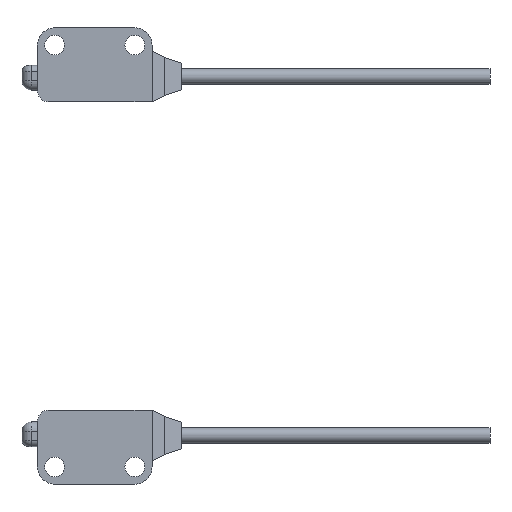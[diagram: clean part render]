
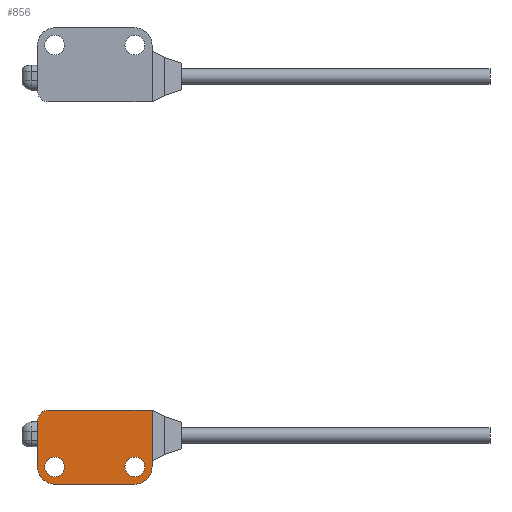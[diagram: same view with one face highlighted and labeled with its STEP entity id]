
A CAD part, left-side view. The second image highlights one B-rep face of the part: STEP entity #856.
In plain terms, the highlighted planar face has unit normal (-1, 0, 0).
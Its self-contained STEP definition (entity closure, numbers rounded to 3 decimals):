
#350 = VERTEX_POINT ( 'NONE', #1519 ) ;
#377 = EDGE_CURVE ( 'NONE', #350, #382, #1602, .T. ) ;
#382 = VERTEX_POINT ( 'NONE', #1593 ) ;
#432 = EDGE_CURVE ( 'NONE', #433, #451, #1676, .T. ) ;
#433 = VERTEX_POINT ( 'NONE', #1672 ) ;
#451 = VERTEX_POINT ( 'NONE', #1704 ) ;
#452 = EDGE_CURVE ( 'NONE', #487, #466, #1702, .T. ) ;
#466 = VERTEX_POINT ( 'NONE', #1741 ) ;
#487 = VERTEX_POINT ( 'NONE', #1779 ) ;
#797 = ORIENTED_EDGE ( 'NONE', *, *, #798, .T. ) ;
#798 = EDGE_CURVE ( 'NONE', #923, #466, #2315, .T. ) ;
#799 = ORIENTED_EDGE ( 'NONE', *, *, #432, .T. ) ;
#800 = ORIENTED_EDGE ( 'NONE', *, *, #452, .F. ) ;
#801 = EDGE_CURVE ( 'NONE', #487, #917, #2300, .T. ) ;
#803 = ORIENTED_EDGE ( 'NONE', *, *, #854, .T. ) ;
#805 = EDGE_LOOP ( 'NONE', ( #803, #857 ) ) ;
#807 = EDGE_LOOP ( 'NONE', ( #861, #799 ) ) ;
#808 = ORIENTED_EDGE ( 'NONE', *, *, #912, .F. ) ;
#809 = ORIENTED_EDGE ( 'NONE', *, *, #801, .T. ) ;
#812 = ORIENTED_EDGE ( 'NONE', *, *, #886, .F. ) ;
#843 = ORIENTED_EDGE ( 'NONE', *, *, #859, .T. ) ;
#854 = EDGE_CURVE ( 'NONE', #382, #350, #2367, .T. ) ;
#855 = EDGE_LOOP ( 'NONE', ( #858, #797, #800, #809, #808, #843, #812 ) ) ;
#856 = ADVANCED_FACE ( 'NONE', ( #2357, #2359, #2368 ), #2383, .F. ) ;
#857 = ORIENTED_EDGE ( 'NONE', *, *, #377, .T. ) ;
#858 = ORIENTED_EDGE ( 'NONE', *, *, #925, .F. ) ;
#859 = EDGE_CURVE ( 'NONE', #924, #897, #2354, .T. ) ;
#860 = EDGE_CURVE ( 'NONE', #451, #433, #2360, .T. ) ;
#861 = ORIENTED_EDGE ( 'NONE', *, *, #860, .T. ) ;
#886 = EDGE_CURVE ( 'NONE', #929, #897, #2431, .T. ) ;
#897 = VERTEX_POINT ( 'NONE', #2162 ) ;
#912 = EDGE_CURVE ( 'NONE', #924, #917, #2467, .T. ) ;
#917 = VERTEX_POINT ( 'NONE', #2471 ) ;
#923 = VERTEX_POINT ( 'NONE', #2446 ) ;
#924 = VERTEX_POINT ( 'NONE', #2468 ) ;
#925 = EDGE_CURVE ( 'NONE', #923, #929, #2448, .T. ) ;
#929 = VERTEX_POINT ( 'NONE', #2501 ) ;
#1519 = CARTESIAN_POINT ( 'NONE',  ( -4.1, -6.5, -7.6 ) ) ;
#1523 = CARTESIAN_POINT ( 'NONE',  ( -4.1, -6.5, -9.2 ) ) ;
#1550 = AXIS2_PLACEMENT_3D ( 'NONE', #1523, #1599, #1598 ) ;
#1593 = CARTESIAN_POINT ( 'NONE',  ( -4.1, -6.5, -10.8 ) ) ;
#1598 = DIRECTION ( 'NONE',  ( 0., 0., -1. ) ) ;
#1599 = DIRECTION ( 'NONE',  ( 1., 0., 0. ) ) ;
#1602 = CIRCLE ( 'NONE', #1550, 1.6 ) ;
#1647 = CARTESIAN_POINT ( 'NONE',  ( -4.1, 6.5, -9.2 ) ) ;
#1669 = DIRECTION ( 'NONE',  ( 0., 0., -1. ) ) ;
#1670 = DIRECTION ( 'NONE',  ( 1., 0., 0. ) ) ;
#1672 = CARTESIAN_POINT ( 'NONE',  ( -4.1, 6.5, -7.6 ) ) ;
#1676 = CIRCLE ( 'NONE', #1691, 1.6 ) ;
#1691 = AXIS2_PLACEMENT_3D ( 'NONE', #1647, #1670, #1669 ) ;
#1699 = DIRECTION ( 'NONE',  ( 0., 0., 1. ) ) ;
#1700 = VECTOR ( 'NONE', #1699, 1000. ) ;
#1701 = CARTESIAN_POINT ( 'NONE',  ( -4.1, 9.3, 0. ) ) ;
#1702 = LINE ( 'NONE', #1701, #1700 ) ;
#1704 = CARTESIAN_POINT ( 'NONE',  ( -4.1, 6.5, -10.8 ) ) ;
#1741 = CARTESIAN_POINT ( 'NONE',  ( -4.1, 9.3, -1.8 ) ) ;
#1779 = CARTESIAN_POINT ( 'NONE',  ( -4.1, 9.3, -9.2 ) ) ;
#2162 = CARTESIAN_POINT ( 'NONE',  ( -4.1, -9.3, -9.2 ) ) ;
#2254 = DIRECTION ( 'NONE',  ( -1., 0., 0. ) ) ;
#2296 = DIRECTION ( 'NONE',  ( 0., 0., -1. ) ) ;
#2297 = DIRECTION ( 'NONE',  ( -1., 0., 0. ) ) ;
#2298 = CARTESIAN_POINT ( 'NONE',  ( -4.1, 6.5, -9.2 ) ) ;
#2299 = AXIS2_PLACEMENT_3D ( 'NONE', #2298, #2297, #2296 ) ;
#2300 = CIRCLE ( 'NONE', #2299, 2.8 ) ;
#2301 = DIRECTION ( 'NONE',  ( 0., 0., -1. ) ) ;
#2307 = AXIS2_PLACEMENT_3D ( 'NONE', #2308, #2254, #2301 ) ;
#2308 = CARTESIAN_POINT ( 'NONE',  ( -4.1, 7.5, -1.8 ) ) ;
#2315 = CIRCLE ( 'NONE', #2307, 1.8 ) ;
#2333 = DIRECTION ( 'NONE',  ( 1., 0., 0. ) ) ;
#2353 = AXIS2_PLACEMENT_3D ( 'NONE', #2404, #2403, #2402 ) ;
#2354 = CIRCLE ( 'NONE', #2411, 2.8 ) ;
#2355 = DIRECTION ( 'NONE',  ( 0., 0., -1. ) ) ;
#2356 = DIRECTION ( 'NONE',  ( 1., 0., 0. ) ) ;
#2357 = FACE_BOUND ( 'NONE', #805, .T. ) ;
#2358 = CARTESIAN_POINT ( 'NONE',  ( -4.1, -9.3, 0. ) ) ;
#2359 = FACE_BOUND ( 'NONE', #807, .T. ) ;
#2360 = CIRCLE ( 'NONE', #2353, 1.6 ) ;
#2361 = AXIS2_PLACEMENT_3D ( 'NONE', #2358, #2356, #2362 ) ;
#2362 = DIRECTION ( 'NONE',  ( 0., 0., -1. ) ) ;
#2367 = CIRCLE ( 'NONE', #2377, 1.6 ) ;
#2368 = FACE_OUTER_BOUND ( 'NONE', #855, .T. ) ;
#2377 = AXIS2_PLACEMENT_3D ( 'NONE', #2382, #2333, #2355 ) ;
#2382 = CARTESIAN_POINT ( 'NONE',  ( -4.1, -6.5, -9.2 ) ) ;
#2383 = PLANE ( 'NONE',  #2361 ) ;
#2402 = DIRECTION ( 'NONE',  ( 0., 0., -1. ) ) ;
#2403 = DIRECTION ( 'NONE',  ( 1., 0., 0. ) ) ;
#2404 = CARTESIAN_POINT ( 'NONE',  ( -4.1, 6.5, -9.2 ) ) ;
#2408 = DIRECTION ( 'NONE',  ( 0., 0., -1. ) ) ;
#2409 = DIRECTION ( 'NONE',  ( -1., 0., 0. ) ) ;
#2410 = CARTESIAN_POINT ( 'NONE',  ( -4.1, -6.5, -9.2 ) ) ;
#2411 = AXIS2_PLACEMENT_3D ( 'NONE', #2410, #2409, #2408 ) ;
#2428 = DIRECTION ( 'NONE',  ( 0., 0., -1. ) ) ;
#2429 = VECTOR ( 'NONE', #2428, 1000. ) ;
#2430 = CARTESIAN_POINT ( 'NONE',  ( -4.1, -9.3, 0. ) ) ;
#2431 = LINE ( 'NONE', #2430, #2429 ) ;
#2446 = CARTESIAN_POINT ( 'NONE',  ( -4.1, 7.5, 0. ) ) ;
#2447 = CARTESIAN_POINT ( 'NONE',  ( -4.1, 9.3, 0. ) ) ;
#2448 = LINE ( 'NONE', #2447, #2456 ) ;
#2456 = VECTOR ( 'NONE', #2502, 1000. ) ;
#2464 = DIRECTION ( 'NONE',  ( 0., 1., 0. ) ) ;
#2465 = VECTOR ( 'NONE', #2464, 1000. ) ;
#2466 = CARTESIAN_POINT ( 'NONE',  ( -4.1, 9.3, -12. ) ) ;
#2467 = LINE ( 'NONE', #2466, #2465 ) ;
#2468 = CARTESIAN_POINT ( 'NONE',  ( -4.1, -6.5, -12. ) ) ;
#2471 = CARTESIAN_POINT ( 'NONE',  ( -4.1, 6.5, -12. ) ) ;
#2501 = CARTESIAN_POINT ( 'NONE',  ( -4.1, -9.3, 0. ) ) ;
#2502 = DIRECTION ( 'NONE',  ( 0., -1., 0. ) ) ;
